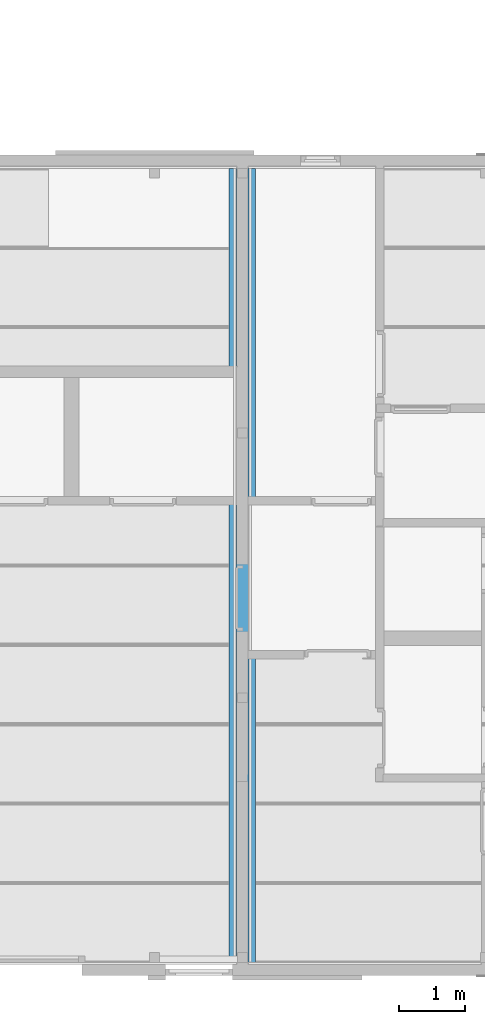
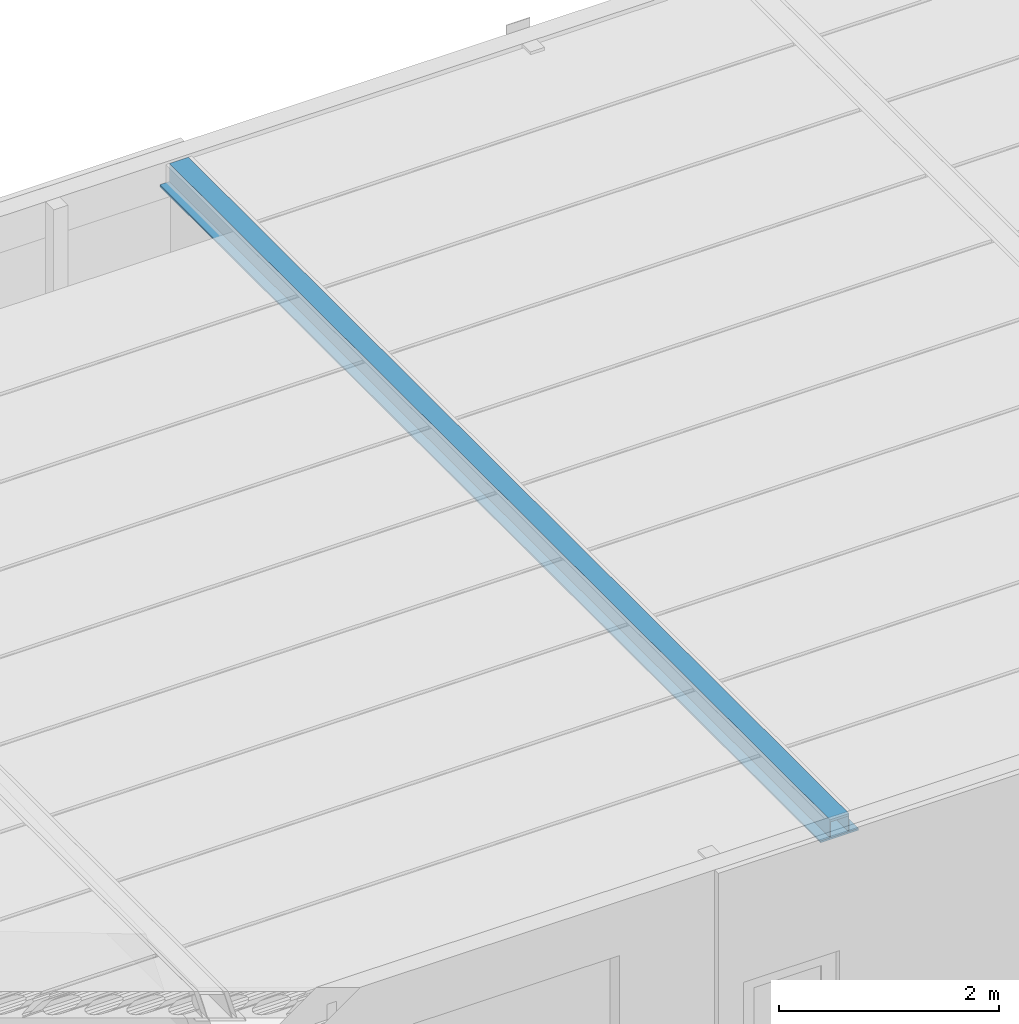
# One storey, part 16 of 45: 1 beam.
"""IFC2X3 building model written with IfcOpenShell, lengths in millimetres."""

from ifc_helpers import new_model, entity, si_unit, converted_unit, frame, origin, place, context, subcontext, project, spatial, faceted_brep, material, element, save


model = new_model("IFC2X3")

# Units and contexts
model_context = context("Model", 3, precision=1e-05, world=origin())
plan_context = context("Plan", 3, precision=1e-05, world=origin())
body_context = subcontext(model_context, "Body", "Model", "MODEL_VIEW")
ifc_project = project(units=[si_unit("LENGTHUNIT", "METRE", prefix="MILLI"), converted_unit("PLANEANGLEUNIT", "DEGREE", entity("IfcPlaneAngleMeasure", 0.0174532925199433), si_unit("PLANEANGLEUNIT", "RADIAN"), dimensions=[0, 0, 0, 0, 0, 0, 0]), si_unit("AREAUNIT", "SQUARE_METRE"), si_unit("VOLUMEUNIT", "CUBIC_METRE")], contexts=[model_context, plan_context])

# Building, storey
building_placement = place(None, origin())
building = spatial("IfcBuilding", under=ifc_project, at=building_placement, Name="HEKF Administrasjonbygg", CompositionType="ELEMENT")
storey_placement = place(building_placement, frame((0.0, 0.0, 6500.0), z_axis=(0.0, 0.0, 1.0), x_axis=(1.0, 0.0, 0.0)))
storey = spatial("IfcBuildingStorey", under=building, at=storey_placement, Name="Plan 1", CompositionType="ELEMENT", Elevation=6500.0)

# Beam
ifc_material = material(Name="HSQ")
beam_placement = place(storey_placement, frame((0.0, 0.0, -6500.0), z_axis=(0.0, 0.0, 1.0), x_axis=(1.0, 0.0, 0.0)))
element("IfcBeam", 1, at=beam_placement, inside=storey, material=ifc_material, context=body_context, shape_type="Brep", body=[
    faceted_brep([(16125.0, -12000.0, 9670.0), (16125.0, -12000.0, 9650.0), (16125.0, -9.833671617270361e-14, 9650.0), (16125.0, -9.833671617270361e-14, 9670.0), (16525.0, -12000.0, 9670.0), (16525.0, -12000.0, 9650.0), (16125.0, -12000.0, 9650.0), (16125.0, -12000.0, 9670.0), (16225.0, -12000.0, 9670.0), (16225.0, -12000.0, 9870.0), (16425.0, -12000.0, 9870.0), (16425.0, -12000.0, 9670.0), (16230.0, -12000.0, 9670.0), (16420.0, -12000.0, 9670.0), (16420.0, -12000.0, 9845.0), (16230.0, -12000.0, 9845.0), (16525.0, -1.290369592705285e-13, 9670.0), (16525.0, -1.290369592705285e-13, 9650.0), (16525.0, -12000.0, 9650.0), (16525.0, -12000.0, 9670.0), (16125.0, -9.833671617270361e-14, 9670.0), (16125.0, -9.833671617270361e-14, 9650.0), (16525.0, -1.290369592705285e-13, 9650.0), (16525.0, -1.290369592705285e-13, 9670.0), (16425.0, -6.123233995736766e-15, 9670.0), (16425.0, -6.123233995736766e-15, 9870.0), (16225.0, -1.83697019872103e-14, 9870.0), (16225.0, -1.83697019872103e-14, 9670.0), (16230.0, -1.806354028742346e-14, 9670.0), (16230.0, -1.806354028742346e-14, 9845.0), (16420.0, -6.429395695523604e-15, 9845.0), (16420.0, -6.429395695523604e-15, 9670.0), (16125.0, -12000.0, 9650.0), (16525.0, -12000.0, 9650.0), (16525.0, -1.290369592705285e-13, 9650.0), (16125.0, -9.833671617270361e-14, 9650.0), (16525.0, -12000.0, 9670.0), (16425.0, -12000.0, 9670.0), (16425.0, -6.123233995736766e-15, 9670.0), (16525.0, -1.290369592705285e-13, 9670.0), (16425.0, -12000.0, 9670.0), (16425.0, -12000.0, 9870.0), (16425.0, -6.123233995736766e-15, 9870.0), (16425.0, -6.123233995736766e-15, 9670.0), (16425.0, -12000.0, 9870.0), (16225.0, -12000.0, 9870.0), (16225.0, -1.83697019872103e-14, 9870.0), (16425.0, -6.123233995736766e-15, 9870.0), (16225.0, -12000.0, 9870.0), (16225.0, -12000.0, 9670.0), (16225.0, -1.83697019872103e-14, 9670.0), (16225.0, -1.83697019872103e-14, 9870.0), (16225.0, -12000.0, 9670.0), (16125.0, -12000.0, 9670.0), (16125.0, -9.833671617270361e-14, 9670.0), (16225.0, -1.83697019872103e-14, 9670.0), (16230.0, -12000.0, 9670.0), (16230.0, -12000.0, 9845.0), (16230.0, -1.806354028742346e-14, 9845.0), (16230.0, -1.806354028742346e-14, 9670.0), (16230.0, -12000.0, 9845.0), (16420.0, -12000.0, 9845.0), (16420.0, -6.429395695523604e-15, 9845.0), (16230.0, -1.806354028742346e-14, 9845.0), (16420.0, -12000.0, 9845.0), (16420.0, -12000.0, 9670.0), (16420.0, -6.429395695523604e-15, 9670.0), (16420.0, -6.429395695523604e-15, 9845.0), (16420.0, -12000.0, 9670.0), (16230.0, -12000.0, 9670.0), (16230.0, -1.806354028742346e-14, 9670.0), (16420.0, -6.429395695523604e-15, 9670.0)], [[[0, 1, 2, 3]], [[4, 5, 6, 7, 8, 9, 10, 11], [12, 13, 14, 15]], [[16, 17, 18, 19]], [[20, 21, 22, 23, 24, 25, 26, 27], [28, 29, 30, 31]], [[32, 33, 34, 35]], [[36, 37, 38, 39]], [[40, 41, 42, 43]], [[44, 45, 46, 47]], [[48, 49, 50, 51]], [[52, 53, 54, 55]], [[56, 57, 58, 59]], [[60, 61, 62, 63]], [[64, 65, 66, 67]], [[68, 69, 70, 71]]], orient=[[False], [False, False], [False], [False, False], [False], [False], [False], [False], [False], [False], [False], [False], [False], [False]]),
])

save(model, "model.ifc")
